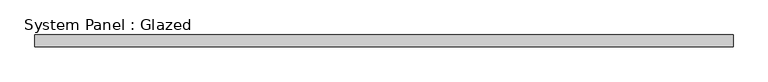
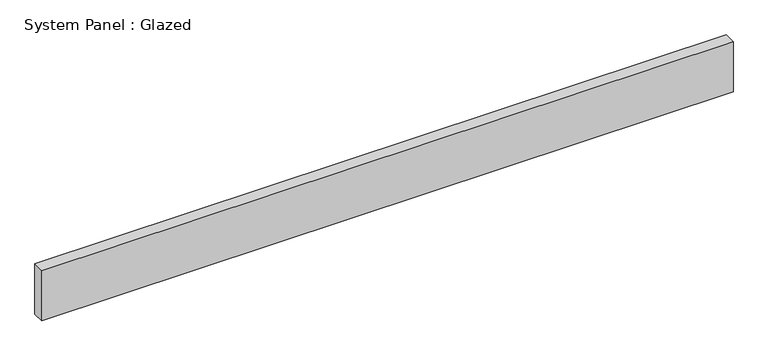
"""IFC4 building model written with IfcOpenShell, lengths in millimetres: plate geometry, System Panel : Glazed."""

from ifc_helpers import new_model, si_unit, origin, origin_with_axes, place, context, project, spatial, polyline, outline, extrude, source, transform, mapped, element, save


def system_panel_glazed_8cafdc8f(model_context):
    return source(origin(), model_context, "Body", "SweptSolid", [
        extrude(outline(polyline([(742.95, 19.05), (-742.95, 19.05), (-742.95, 44.45), (742.95, 44.45), (742.95, 19.05)])), origin_with_axes(), (0.0, 0.0, 1.0), 114.3),
    ])


if __name__ == "__main__":
    model = new_model("IFC4")
    model_context = context("Model", 3, world=origin())
    ifc_project = project(units=[si_unit("LENGTHUNIT", "METRE", prefix="MILLI")], contexts=[model_context])
    site = spatial("IfcSite", under=ifc_project)
    building = spatial("IfcBuilding", under=site)
    placement = place(None, origin())
    system_panel_glazed_shape = system_panel_glazed_8cafdc8f(model_context)
    element("IfcPlate", 1, ObjectType="System Panel : Glazed", at=placement, inside=building, context=model_context, shape_type="MappedRepresentation", body=[
        mapped(system_panel_glazed_shape, transform((0.0, 0.0, 0.0), x_axis=(1.0, 0.0, 0.0), y_axis=(0.0, 1.0, 0.0), z_axis=(0.0, 0.0, 1.0))),
    ])
    save(model, "model.ifc")
